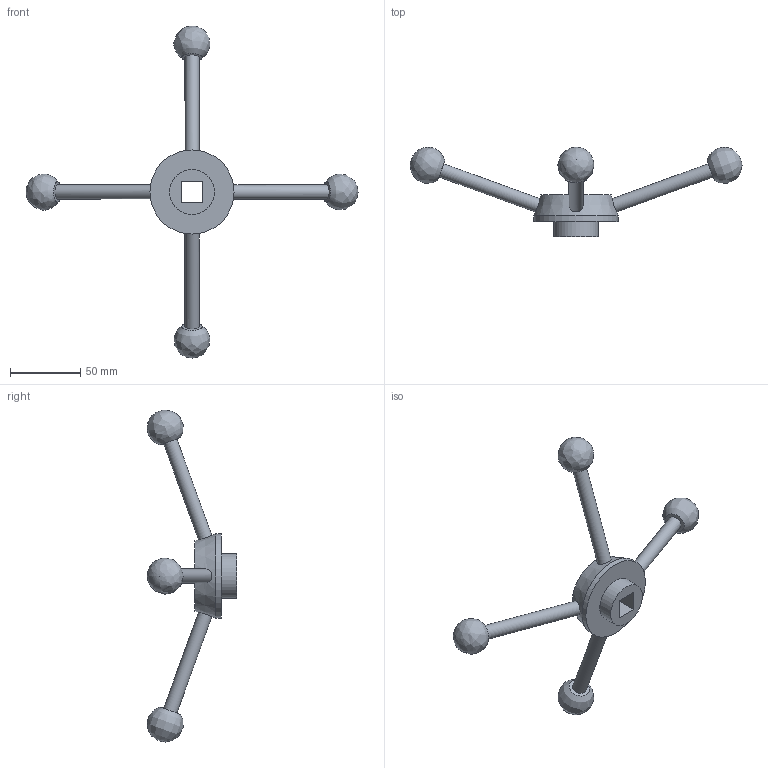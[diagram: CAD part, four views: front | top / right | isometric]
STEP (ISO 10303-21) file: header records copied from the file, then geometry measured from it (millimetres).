
FILE_DESCRIPTION( ( 'STEP AP203' ), '1' );
FILE_NAME( 'C:/Temp/Ganter_Step_05_03_2020/data/2_1/gn_213/gn_213_v/Turret lever GN 213-60-V15.stp', '2020-03-05T11:51:19', ( 'License CC BY-ND 4.0' ), ( 'CADENAS' ), ' ', 'PARTsolutions', ' ' );
FILE_SCHEMA( ( 'CONFIG_CONTROL_DESIGN' ) );
Length unit declared in the file: millimetre
Products named in the file (1): _Turret lever GN 213-60-V15
Bounding box: 236.89 x 64 x 236.89 mm (x, y, z)
Volume: 106898.5 mm3; surface area: 27547.4 mm2
Topology: 1 solids, 1 shells, 22 faces, 50 edges, 34 vertices
Faces by surface type: plane 11, cylinder 6, bspline 4, cone 1
Full cylindrical faces by diameter (mm): 10 x4, 32 x1, 60 x1
Entity records: 918 total; most frequent: CARTESIAN_POINT 477, DIRECTION 76, ORIENTED_EDGE 58, EDGE_LOOP 40, AXIS2_PLACEMENT_3D 32, VERTEX_POINT 29, EDGE_CURVE 29, FACE_OUTER_BOUND 28
